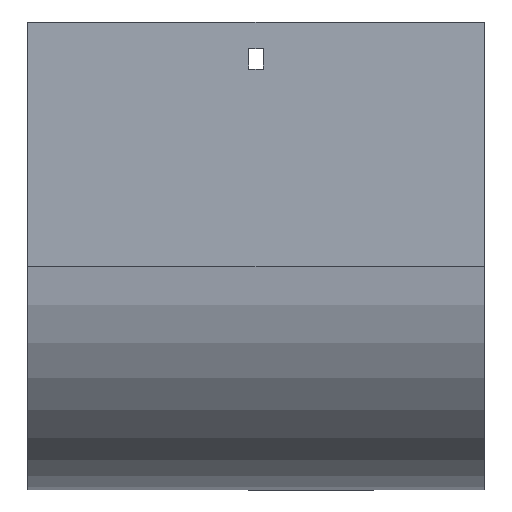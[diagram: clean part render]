
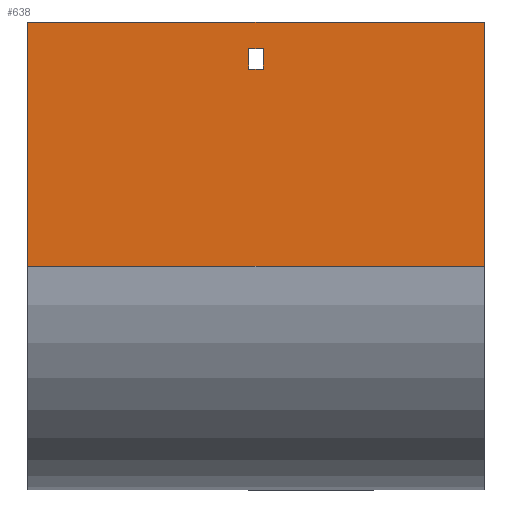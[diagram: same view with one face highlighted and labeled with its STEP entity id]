
A CAD part, front view. The second image highlights one B-rep face of the part: STEP entity #638.
In plain terms, the highlighted planar face has unit normal (0, -1, 0).
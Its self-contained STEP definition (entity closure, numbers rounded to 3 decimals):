
#18 = DIRECTION ( 'NONE',  ( 0., 1., 0. ) ) ;
#41 = VECTOR ( 'NONE', #793, 1000. ) ;
#70 = CARTESIAN_POINT ( 'NONE',  ( -3.25, -79., -21. ) ) ;
#126 = AXIS2_PLACEMENT_3D ( 'NONE', #475, #18, #1079 ) ;
#135 = CARTESIAN_POINT ( 'NONE',  ( 102., -79., 0. ) ) ;
#157 = FACE_BOUND ( 'NONE', #1582, .T. ) ;
#168 = ORIENTED_EDGE ( 'NONE', *, *, #1053, .T. ) ;
#171 = LINE ( 'NONE', #1213, #910 ) ;
#180 = VECTOR ( 'NONE', #1016, 1000. ) ;
#181 = CARTESIAN_POINT ( 'NONE',  ( 3.25, -79., -21. ) ) ;
#182 = LINE ( 'NONE', #1375, #41 ) ;
#193 = ORIENTED_EDGE ( 'NONE', *, *, #1453, .T. ) ;
#207 = VERTEX_POINT ( 'NONE', #333 ) ;
#215 = DIRECTION ( 'NONE',  ( -1., 0., 0. ) ) ;
#247 = ORIENTED_EDGE ( 'NONE', *, *, #1271, .T. ) ;
#265 = CARTESIAN_POINT ( 'NONE',  ( 3.25, -79., -12. ) ) ;
#267 = VERTEX_POINT ( 'NONE', #1710 ) ;
#304 = DIRECTION ( 'NONE',  ( -1., 0., 0. ) ) ;
#308 = CARTESIAN_POINT ( 'NONE',  ( -3.25, -79., -21. ) ) ;
#333 = CARTESIAN_POINT ( 'NONE',  ( 102., -79., -109. ) ) ;
#378 = ORIENTED_EDGE ( 'NONE', *, *, #610, .F. ) ;
#432 = EDGE_LOOP ( 'NONE', ( #827, #1649, #378, #247 ) ) ;
#461 = LINE ( 'NONE', #1065, #1405 ) ;
#475 = CARTESIAN_POINT ( 'NONE',  ( 102., -79., -109. ) ) ;
#494 = EDGE_CURVE ( 'NONE', #1349, #1701, #1657, .T. ) ;
#517 = VERTEX_POINT ( 'NONE', #265 ) ;
#539 = ORIENTED_EDGE ( 'NONE', *, *, #1917, .T. ) ;
#610 = EDGE_CURVE ( 'NONE', #961, #207, #182, .T. ) ;
#638 = ADVANCED_FACE ( 'NONE', ( #157, #1223 ), #767, .F. ) ;
#767 = PLANE ( 'NONE',  #126 ) ;
#793 = DIRECTION ( 'NONE',  ( 0., 0., -1. ) ) ;
#827 = ORIENTED_EDGE ( 'NONE', *, *, #494, .T. ) ;
#910 = VECTOR ( 'NONE', #1399, 1000. ) ;
#946 = VECTOR ( 'NONE', #1481, 1000. ) ;
#961 = VERTEX_POINT ( 'NONE', #135 ) ;
#999 = LINE ( 'NONE', #1287, #1009 ) ;
#1009 = VECTOR ( 'NONE', #215, 1000. ) ;
#1016 = DIRECTION ( 'NONE',  ( -1., 0., 0. ) ) ;
#1020 = VERTEX_POINT ( 'NONE', #70 ) ;
#1029 = VERTEX_POINT ( 'NONE', #1882 ) ;
#1042 = LINE ( 'NONE', #1473, #1337 ) ;
#1053 = EDGE_CURVE ( 'NONE', #1029, #517, #1042, .T. ) ;
#1065 = CARTESIAN_POINT ( 'NONE',  ( 102., -79., 0. ) ) ;
#1079 = DIRECTION ( 'NONE',  ( 0., 0., 1. ) ) ;
#1213 = CARTESIAN_POINT ( 'NONE',  ( -3.25, -79., -21. ) ) ;
#1222 = ORIENTED_EDGE ( 'NONE', *, *, #1640, .T. ) ;
#1223 = FACE_OUTER_BOUND ( 'NONE', #432, .T. ) ;
#1271 = EDGE_CURVE ( 'NONE', #961, #1349, #461, .T. ) ;
#1287 = CARTESIAN_POINT ( 'NONE',  ( 102., -79., -109. ) ) ;
#1337 = VECTOR ( 'NONE', #1642, 1000. ) ;
#1349 = VERTEX_POINT ( 'NONE', #1764 ) ;
#1375 = CARTESIAN_POINT ( 'NONE',  ( 102., -79., -109. ) ) ;
#1399 = DIRECTION ( 'NONE',  ( 0., 0., 1. ) ) ;
#1405 = VECTOR ( 'NONE', #304, 1000. ) ;
#1453 = EDGE_CURVE ( 'NONE', #267, #1020, #1673, .T. ) ;
#1473 = CARTESIAN_POINT ( 'NONE',  ( -3.25, -79., -12. ) ) ;
#1474 = DIRECTION ( 'NONE',  ( 0., 0., -1. ) ) ;
#1481 = DIRECTION ( 'NONE',  ( 0., 0., -1. ) ) ;
#1499 = CARTESIAN_POINT ( 'NONE',  ( -102., -79., -109. ) ) ;
#1557 = LINE ( 'NONE', #181, #1773 ) ;
#1582 = EDGE_LOOP ( 'NONE', ( #193, #539, #168, #1222 ) ) ;
#1640 = EDGE_CURVE ( 'NONE', #517, #267, #1557, .T. ) ;
#1642 = DIRECTION ( 'NONE',  ( 1., 0., 0. ) ) ;
#1649 = ORIENTED_EDGE ( 'NONE', *, *, #1729, .F. ) ;
#1657 = LINE ( 'NONE', #1499, #946 ) ;
#1673 = LINE ( 'NONE', #308, #180 ) ;
#1701 = VERTEX_POINT ( 'NONE', #1776 ) ;
#1710 = CARTESIAN_POINT ( 'NONE',  ( 3.25, -79., -21. ) ) ;
#1729 = EDGE_CURVE ( 'NONE', #207, #1701, #999, .T. ) ;
#1764 = CARTESIAN_POINT ( 'NONE',  ( -102., -79., 0. ) ) ;
#1773 = VECTOR ( 'NONE', #1474, 1000. ) ;
#1776 = CARTESIAN_POINT ( 'NONE',  ( -102., -79., -109. ) ) ;
#1882 = CARTESIAN_POINT ( 'NONE',  ( -3.25, -79., -12. ) ) ;
#1917 = EDGE_CURVE ( 'NONE', #1020, #1029, #171, .T. ) ;
